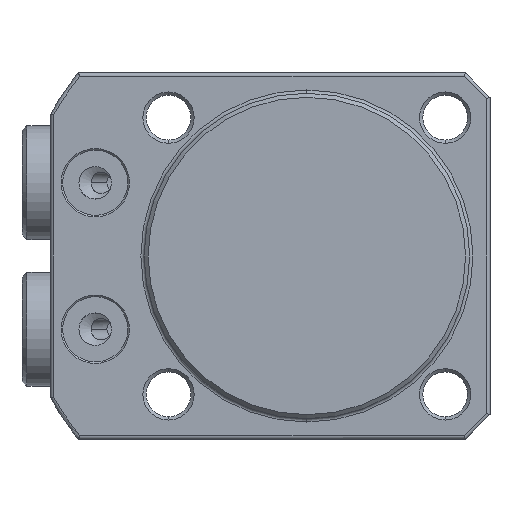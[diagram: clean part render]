
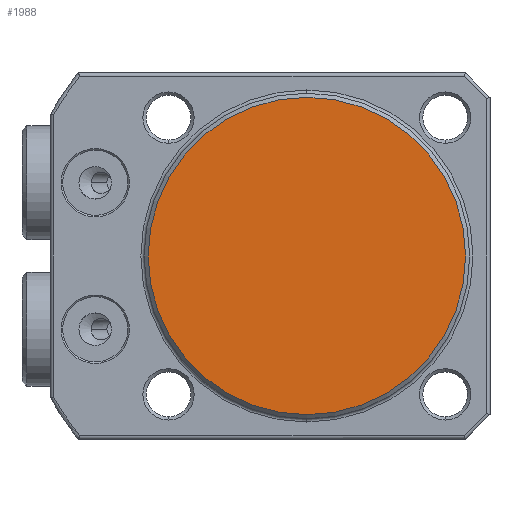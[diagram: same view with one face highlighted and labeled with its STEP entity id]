
A CAD part, front view. The second image highlights one B-rep face of the part: STEP entity #1988.
In plain terms, the highlighted planar face has unit normal (0, -1, 0) as drawn and (-1, 0, 0) by its records, which use the part's own axes.
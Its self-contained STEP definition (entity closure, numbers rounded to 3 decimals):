
#1667=PLANE('',#7007);
#1988=ADVANCED_FACE('',(#2392),#1667,.F.);
#2392=FACE_OUTER_BOUND('',#2751,.T.);
#2751=EDGE_LOOP('',(#4823));
#4823=ORIENTED_EDGE('',*,*,#6024,.T.);
#5281=VERTEX_POINT('',#11459);
#6024=EDGE_CURVE('',#5281,#5281,#6363,.T.);
#6363=CIRCLE('',#7006,19.5);
#7006=AXIS2_PLACEMENT_3D('',#11458,#8602,#8603);
#7007=AXIS2_PLACEMENT_3D('',#11460,#8604,#8605);
#8602=DIRECTION('',(-1.,0.,0.));
#8603=DIRECTION('',(0.,0.,-1.));
#8604=DIRECTION('',(1.,0.,0.));
#8605=DIRECTION('',(0.,0.,1.));
#11458=CARTESIAN_POINT('',(0.,0.,0.));
#11459=CARTESIAN_POINT('',(0.,0.,-19.5));
#11460=CARTESIAN_POINT('',(0.,0.,0.));
